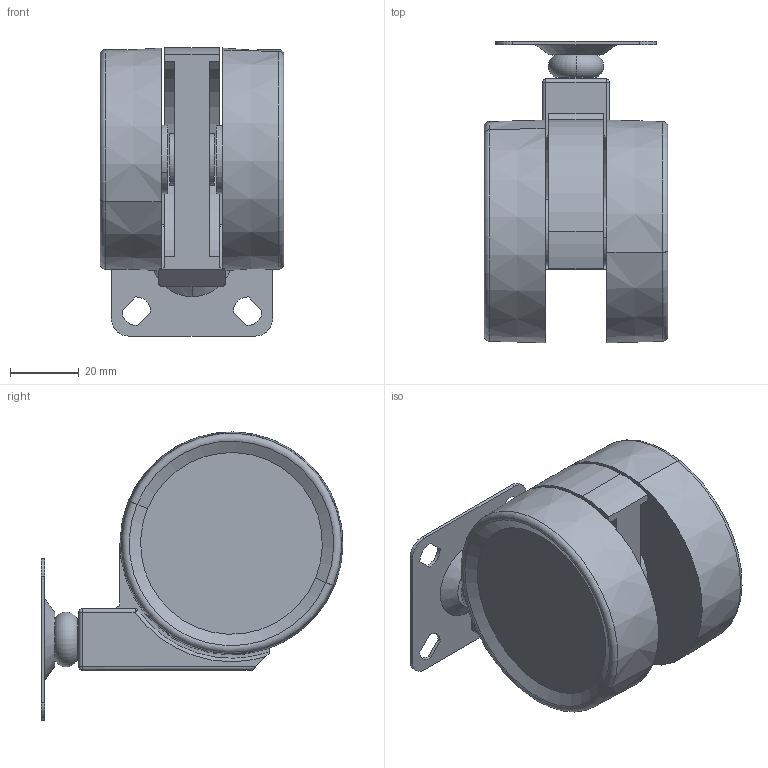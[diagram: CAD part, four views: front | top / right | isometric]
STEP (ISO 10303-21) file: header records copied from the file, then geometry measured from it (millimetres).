
FILE_DESCRIPTION (( 'STEP AP214' ), '1' );
FILE_NAME ('FROG-65-P.STEP', '2020-04-17T11:51:21', ( '' ), ( '' ), 'SwSTEP 2.0', 'SolidWorks 2019', '' );
FILE_SCHEMA (( 'AUTOMOTIVE_DESIGN' ));
Length unit declared in the file: millimetre
Products named in the file (4): FROG_partsA; FROG-65_partsB; FROG-65-P; FROG-65_wheel
Assembly tree (4 placements, depth 2):
  FROG-65-P
    FROG-65_partsB
    FROG-65_wheel  x2
    FROG_partsA
Bounding box: 53.5 x 88 x 84 mm (x, y, z)
Volume: 148647.6 mm3; surface area: 35779.7 mm2
Topology: 4 solids, 4 shells, 113 faces, 269 edges, 168 vertices
Faces by surface type: cylinder 50, plane 38, cone 10, torus 9, sphere 6
Entity records: 3184 total; most frequent: DIRECTION 578, CARTESIAN_POINT 536, ORIENTED_EDGE 490, EDGE_CURVE 245, AXIS2_PLACEMENT_3D 230, VERTEX_POINT 156, CIRCLE 121, LINE 118
